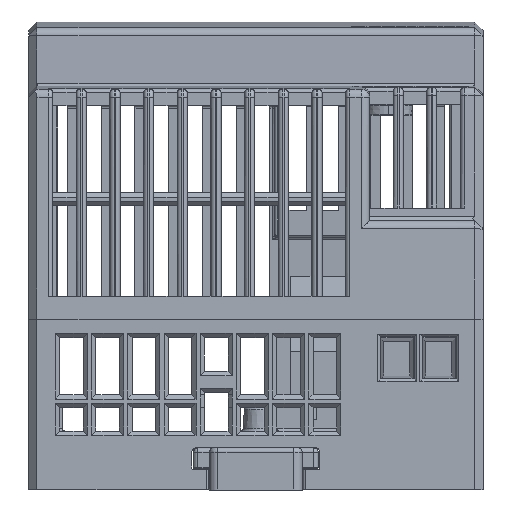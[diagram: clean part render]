
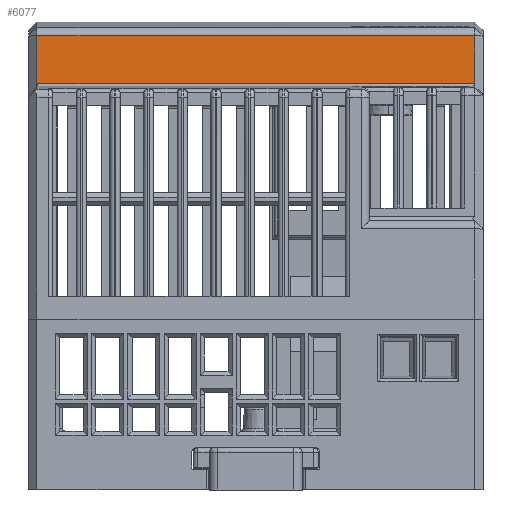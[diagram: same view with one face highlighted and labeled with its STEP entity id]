
A CAD part, front view. The second image highlights one B-rep face of the part: STEP entity #6077.
In plain terms, the highlighted planar face has unit normal (0, -0.999, 0.034) as drawn and (-0.034, 0, 0.999) by its records, which use the part's own axes.
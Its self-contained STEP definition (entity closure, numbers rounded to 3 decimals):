
#3463 = VECTOR ( 'NONE', #24086, 1000. ) ;
#6077 = ADVANCED_FACE ( 'NONE', ( #20513 ), #67912, .F. ) ;
#7647 = CARTESIAN_POINT ( 'NONE',  ( -21.963, 53., -22.944 ) ) ;
#8661 = EDGE_CURVE ( 'NONE', #33404, #32630, #12471, .T. ) ;
#9176 = EDGE_CURVE ( 'NONE', #32630, #22075, #100991, .T. ) ;
#10064 = CARTESIAN_POINT ( 'NONE',  ( -21.963, 1., -22.944 ) ) ;
#12000 = DIRECTION ( 'NONE',  ( 0., -1., 0. ) ) ;
#12471 = LINE ( 'NONE', #64103, #19519 ) ;
#19519 = VECTOR ( 'NONE', #39385, 1000. ) ;
#20513 = FACE_OUTER_BOUND ( 'NONE', #80090, .T. ) ;
#22075 = VERTEX_POINT ( 'NONE', #7647 ) ;
#22454 = ORIENTED_EDGE ( 'NONE', *, *, #9176, .T. ) ;
#24086 = DIRECTION ( 'NONE',  ( -0.999, 0., -0.034 ) ) ;
#25232 = DIRECTION ( 'NONE',  ( 0.034, 0., -0.999 ) ) ;
#27191 = LINE ( 'NONE', #87818, #75491 ) ;
#28091 = VERTEX_POINT ( 'NONE', #10064 ) ;
#32630 = VERTEX_POINT ( 'NONE', #100405 ) ;
#33404 = VERTEX_POINT ( 'NONE', #75806 ) ;
#35266 = ORIENTED_EDGE ( 'NONE', *, *, #75815, .T. ) ;
#36488 = VECTOR ( 'NONE', #100523, 1000. ) ;
#39385 = DIRECTION ( 'NONE',  ( 0., 1., 0. ) ) ;
#41537 = LINE ( 'NONE', #99395, #36488 ) ;
#42574 = CARTESIAN_POINT ( 'NONE',  ( -15.995, 53., -22.739 ) ) ;
#46031 = ORIENTED_EDGE ( 'NONE', *, *, #106196, .T. ) ;
#64103 = CARTESIAN_POINT ( 'NONE',  ( -16.28, 53., -22.749 ) ) ;
#67912 = PLANE ( 'NONE',  #101945 ) ;
#75491 = VECTOR ( 'NONE', #12000, 1000. ) ;
#75806 = CARTESIAN_POINT ( 'NONE',  ( -16.28, 1., -22.749 ) ) ;
#75815 = EDGE_CURVE ( 'NONE', #22075, #28091, #27191, .T. ) ;
#77948 = DIRECTION ( 'NONE',  ( 0., -1., 0. ) ) ;
#80090 = EDGE_LOOP ( 'NONE', ( #46031, #82513, #22454, #35266 ) ) ;
#82513 = ORIENTED_EDGE ( 'NONE', *, *, #8661, .T. ) ;
#87818 = CARTESIAN_POINT ( 'NONE',  ( -21.963, 54., -22.944 ) ) ;
#99395 = CARTESIAN_POINT ( 'NONE',  ( -15.995, 1., -22.739 ) ) ;
#100405 = CARTESIAN_POINT ( 'NONE',  ( -16.28, 53., -22.749 ) ) ;
#100523 = DIRECTION ( 'NONE',  ( 0.999, 0., 0.034 ) ) ;
#100991 = LINE ( 'NONE', #42574, #3463 ) ;
#101945 = AXIS2_PLACEMENT_3D ( 'NONE', #102152, #25232, #77948 ) ;
#102152 = CARTESIAN_POINT ( 'NONE',  ( -15.995, 54., -22.739 ) ) ;
#106196 = EDGE_CURVE ( 'NONE', #28091, #33404, #41537, .T. ) ;
